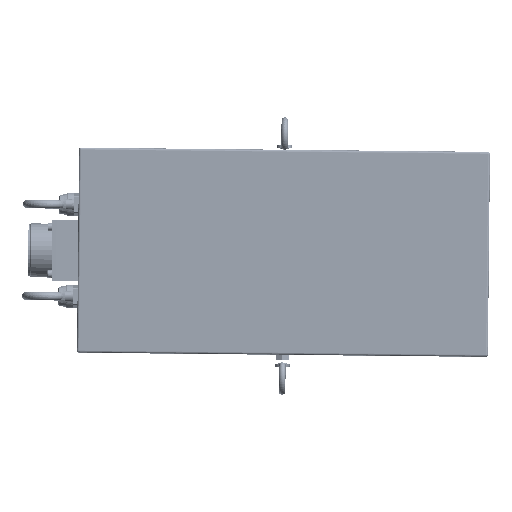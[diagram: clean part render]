
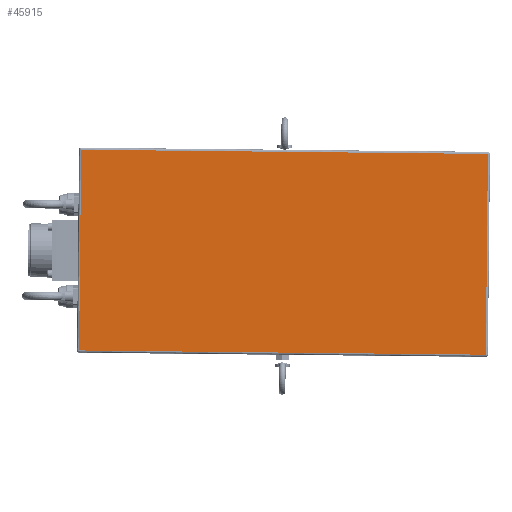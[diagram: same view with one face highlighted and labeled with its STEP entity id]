
A CAD part, top view. The second image highlights one B-rep face of the part: STEP entity #45915.
In plain terms, the highlighted planar face has unit normal (0, 0, 1).
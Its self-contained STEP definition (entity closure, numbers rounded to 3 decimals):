
#45876=CARTESIAN_POINT('',(-101.478,98.56,142.52));
#45877=DIRECTION('',(0.01,1.,0.));
#45878=DIRECTION('',(0.,0.,1.));
#45879=AXIS2_PLACEMENT_3D('',#45876,#45878,#45877);
#45880=PLANE('',#45879);
#45881=CARTESIAN_POINT('',(89.01,-95.931,142.52));
#45882=VERTEX_POINT('',#45881);
#45883=CARTESIAN_POINT('',(90.986,94.059,142.52));
#45884=VERTEX_POINT('',#45883);
#45885=CARTESIAN_POINT('',(89.01,-95.931,142.52));
#45886=DIRECTION('',(0.01,1.,0.));
#45887=VECTOR('',#45886,190.);
#45888=LINE('',#45885,#45887);
#45889=EDGE_CURVE('',#45882,#45884,#45888,.T.);
#45890=ORIENTED_EDGE('E103',*,*,#45889,.T.);
#45891=CARTESIAN_POINT('',(-293.994,98.062,142.52));
#45892=VERTEX_POINT('',#45891);
#45893=CARTESIAN_POINT('',(90.986,94.059,142.52));
#45894=DIRECTION('',(-1.,0.01,0.));
#45895=VECTOR('',#45894,385.);
#45896=LINE('',#45893,#45895);
#45897=EDGE_CURVE('',#45884,#45892,#45896,.T.);
#45898=ORIENTED_EDGE('E108',*,*,#45897,.T.);
#45899=CARTESIAN_POINT('',(-295.969,-91.928,142.52));
#45900=VERTEX_POINT('',#45899);
#45901=CARTESIAN_POINT('',(-293.994,98.062,142.52));
#45902=DIRECTION('',(-0.01,-1.,0.));
#45903=VECTOR('',#45902,190.);
#45904=LINE('',#45901,#45903);
#45905=EDGE_CURVE('',#45892,#45900,#45904,.T.);
#45906=ORIENTED_EDGE('E110',*,*,#45905,.T.);
#45907=CARTESIAN_POINT('',(-295.969,-91.928,142.52));
#45908=DIRECTION('',(1.,-0.01,0.));
#45909=VECTOR('',#45908,385.);
#45910=LINE('',#45907,#45909);
#45911=EDGE_CURVE('',#45900,#45882,#45910,.T.);
#45912=ORIENTED_EDGE('E106',*,*,#45911,.T.);
#45913=EDGE_LOOP('',(#45890,#45898,#45906,#45912));
#45914=FACE_OUTER_BOUND('',#45913,.T.);
#45915=ADVANCED_FACE('F8',(#45914),#45880,.T.);
